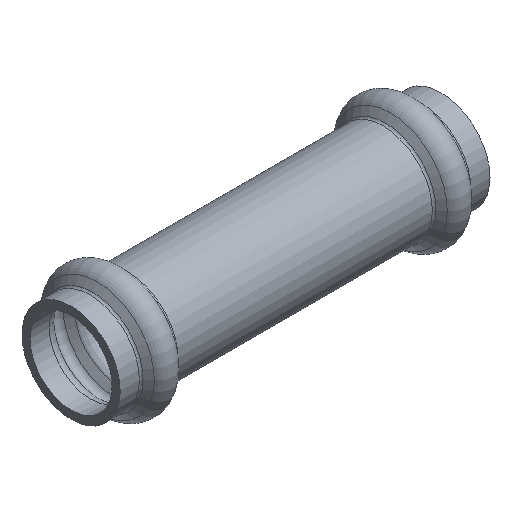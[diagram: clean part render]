
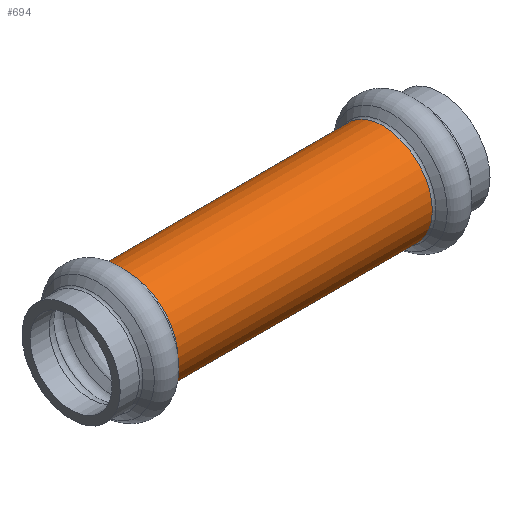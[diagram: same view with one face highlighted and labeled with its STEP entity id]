
A CAD part, isometric view. The second image highlights one B-rep face of the part: STEP entity #694.
In plain terms, the highlighted cylindrical face has radius 12.776 mm (diameter 25.552 mm), a full revolution.
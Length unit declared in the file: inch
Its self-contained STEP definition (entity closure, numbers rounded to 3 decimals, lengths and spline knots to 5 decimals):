
#51=CYLINDRICAL_SURFACE('',#788,0.503);
#61=LINE('',#1256,#75);
#75=VECTOR('',#994,0.503);
#104=FACE_OUTER_BOUND('',#133,.T.);
#133=EDGE_LOOP('',(#525,#526,#527,#528,#529,#530,#531,#532));
#192=CIRCLE('',#785,0.503);
#193=CIRCLE('',#786,0.503);
#194=CIRCLE('',#787,0.503);
#195=CIRCLE('',#789,0.503);
#196=CIRCLE('',#790,0.503);
#197=CIRCLE('',#791,0.503);
#278=VERTEX_POINT('',#1243);
#279=VERTEX_POINT('',#1245);
#280=VERTEX_POINT('',#1247);
#281=VERTEX_POINT('',#1251);
#282=VERTEX_POINT('',#1252);
#283=VERTEX_POINT('',#1254);
#370=EDGE_CURVE('',#279,#278,#192,.T.);
#371=EDGE_CURVE('',#280,#279,#193,.T.);
#372=EDGE_CURVE('',#278,#280,#194,.T.);
#373=EDGE_CURVE('',#281,#282,#195,.T.);
#374=EDGE_CURVE('',#283,#281,#196,.T.);
#375=EDGE_CURVE('',#283,#280,#61,.T.);
#376=EDGE_CURVE('',#282,#283,#197,.T.);
#525=ORIENTED_EDGE('',*,*,#373,.F.);
#526=ORIENTED_EDGE('',*,*,#374,.F.);
#527=ORIENTED_EDGE('',*,*,#375,.T.);
#528=ORIENTED_EDGE('',*,*,#371,.T.);
#529=ORIENTED_EDGE('',*,*,#370,.T.);
#530=ORIENTED_EDGE('',*,*,#372,.T.);
#531=ORIENTED_EDGE('',*,*,#375,.F.);
#532=ORIENTED_EDGE('',*,*,#376,.F.);
#694=ADVANCED_FACE('',(#104),#51,.T.);
#785=AXIS2_PLACEMENT_3D('',#1246,#982,#983);
#786=AXIS2_PLACEMENT_3D('',#1248,#984,#985);
#787=AXIS2_PLACEMENT_3D('',#1249,#986,#987);
#788=AXIS2_PLACEMENT_3D('',#1250,#988,#989);
#789=AXIS2_PLACEMENT_3D('',#1253,#990,#991);
#790=AXIS2_PLACEMENT_3D('',#1255,#992,#993);
#791=AXIS2_PLACEMENT_3D('',#1257,#995,#996);
#982=DIRECTION('center_axis',(1.,0.,0.));
#983=DIRECTION('ref_axis',(0.,1.,0.));
#984=DIRECTION('center_axis',(1.,0.,0.));
#985=DIRECTION('ref_axis',(0.,1.,0.));
#986=DIRECTION('center_axis',(1.,0.,0.));
#987=DIRECTION('ref_axis',(0.,1.,0.));
#988=DIRECTION('center_axis',(1.,0.,0.));
#989=DIRECTION('ref_axis',(0.,1.,0.));
#990=DIRECTION('center_axis',(1.,0.,0.));
#991=DIRECTION('ref_axis',(0.,1.,0.));
#992=DIRECTION('center_axis',(1.,0.,0.));
#993=DIRECTION('ref_axis',(0.,1.,0.));
#994=DIRECTION('',(-1.,0.,0.));
#995=DIRECTION('center_axis',(1.,0.,0.));
#996=DIRECTION('ref_axis',(0.,1.,0.));
#1243=CARTESIAN_POINT('',(-1.30375,0.,0.503));
#1245=CARTESIAN_POINT('',(-1.30375,0.503,0.));
#1246=CARTESIAN_POINT('Origin',(-1.30375,0.,
0.));
#1247=CARTESIAN_POINT('',(-1.30375,-0.503,0.));
#1248=CARTESIAN_POINT('Origin',(-1.30375,0.,
0.));
#1249=CARTESIAN_POINT('Origin',(-1.30375,0.,
0.));
#1250=CARTESIAN_POINT('Origin',(0.65187,0.,
0.));
#1251=CARTESIAN_POINT('',(1.30375,0.503,0.));
#1252=CARTESIAN_POINT('',(1.30375,0.,0.503));
#1253=CARTESIAN_POINT('Origin',(1.30375,0.,0.));
#1254=CARTESIAN_POINT('',(1.30375,-0.503,0.));
#1255=CARTESIAN_POINT('Origin',(1.30375,0.,0.));
#1256=CARTESIAN_POINT('',(0.65187,-0.503,0.));
#1257=CARTESIAN_POINT('Origin',(1.30375,0.,0.));
